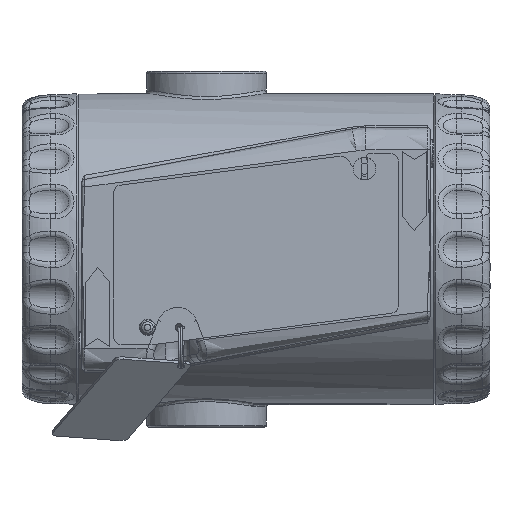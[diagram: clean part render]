
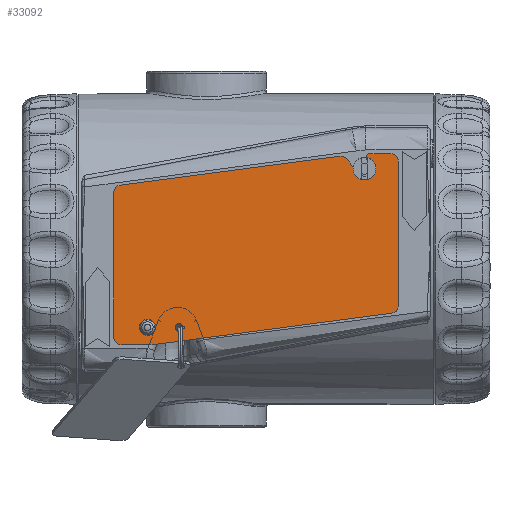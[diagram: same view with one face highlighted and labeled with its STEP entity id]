
A CAD part, left-side view. The second image highlights one B-rep face of the part: STEP entity #33092.
In plain terms, the highlighted planar face has unit normal (-1, 0, 0) as drawn and (0, 0, 1) by its records, which use the part's own axes.
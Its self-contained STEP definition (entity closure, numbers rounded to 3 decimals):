
#2532=FACE_BOUND('',#10654,.T.);
#2533=FACE_BOUND('',#10655,.T.);
#3062=PLANE('',#37426);
#4559=LINE('',#77010,#6097);
#4563=LINE('',#77022,#6101);
#4567=LINE('',#77034,#6105);
#4571=LINE('',#77046,#6109);
#4575=LINE('',#77058,#6113);
#4578=LINE('',#77064,#6116);
#4582=LINE('',#77076,#6120);
#4586=LINE('',#77087,#6124);
#6097=VECTOR('',#46483,10.);
#6101=VECTOR('',#46495,10.);
#6105=VECTOR('',#46507,10.);
#6109=VECTOR('',#46519,10.);
#6113=VECTOR('',#46531,10.);
#6116=VECTOR('',#46536,10.);
#6120=VECTOR('',#46548,10.);
#6124=VECTOR('',#46560,10.);
#8557=FACE_OUTER_BOUND('',#10653,.T.);
#10653=EDGE_LOOP('',(#30636,#30637,#30638,#30639,#30640,#30641,#30642,#30643,
#30644,#30645,#30646,#30647,#30648,#30649,#30650));
#10654=EDGE_LOOP('',(#30651));
#10655=EDGE_LOOP('',(#30652));
#12865=CIRCLE('',#37392,1.35);
#12867=CIRCLE('',#37395,1.);
#12868=CIRCLE('',#37397,2.);
#12870=CIRCLE('',#37401,2.);
#12872=CIRCLE('',#37405,1.);
#12874=CIRCLE('',#37409,2.);
#12876=CIRCLE('',#37413,2.);
#12878=CIRCLE('',#37418,2.);
#12880=CIRCLE('',#37422,2.);
#15902=VERTEX_POINT('',#76990);
#15904=VERTEX_POINT('',#76996);
#15905=VERTEX_POINT('',#77000);
#15906=VERTEX_POINT('',#77001);
#15909=VERTEX_POINT('',#77009);
#15911=VERTEX_POINT('',#77015);
#15913=VERTEX_POINT('',#77021);
#15915=VERTEX_POINT('',#77027);
#15917=VERTEX_POINT('',#77033);
#15919=VERTEX_POINT('',#77039);
#15921=VERTEX_POINT('',#77045);
#15923=VERTEX_POINT('',#77051);
#15925=VERTEX_POINT('',#77057);
#15927=VERTEX_POINT('',#77063);
#15929=VERTEX_POINT('',#77069);
#15931=VERTEX_POINT('',#77075);
#15933=VERTEX_POINT('',#77081);
#20804=EDGE_CURVE('',#15902,#15902,#12865,.T.);
#20807=EDGE_CURVE('',#15904,#15904,#12867,.T.);
#20808=EDGE_CURVE('',#15905,#15906,#12868,.T.);
#20812=EDGE_CURVE('',#15906,#15909,#4559,.T.);
#20815=EDGE_CURVE('',#15909,#15911,#12870,.T.);
#20818=EDGE_CURVE('',#15911,#15913,#4563,.T.);
#20821=EDGE_CURVE('',#15913,#15915,#12872,.T.);
#20824=EDGE_CURVE('',#15915,#15917,#4567,.T.);
#20827=EDGE_CURVE('',#15917,#15919,#12874,.T.);
#20830=EDGE_CURVE('',#15919,#15921,#4571,.T.);
#20833=EDGE_CURVE('',#15921,#15923,#12876,.T.);
#20836=EDGE_CURVE('',#15923,#15925,#4575,.T.);
#20839=EDGE_CURVE('',#15925,#15927,#4578,.T.);
#20842=EDGE_CURVE('',#15927,#15929,#12878,.T.);
#20845=EDGE_CURVE('',#15929,#15931,#4582,.T.);
#20848=EDGE_CURVE('',#15931,#15933,#12880,.T.);
#20851=EDGE_CURVE('',#15933,#15905,#4586,.T.);
#30636=ORIENTED_EDGE('',*,*,#20808,.F.);
#30637=ORIENTED_EDGE('',*,*,#20851,.F.);
#30638=ORIENTED_EDGE('',*,*,#20848,.F.);
#30639=ORIENTED_EDGE('',*,*,#20845,.F.);
#30640=ORIENTED_EDGE('',*,*,#20842,.F.);
#30641=ORIENTED_EDGE('',*,*,#20839,.F.);
#30642=ORIENTED_EDGE('',*,*,#20836,.F.);
#30643=ORIENTED_EDGE('',*,*,#20833,.F.);
#30644=ORIENTED_EDGE('',*,*,#20830,.F.);
#30645=ORIENTED_EDGE('',*,*,#20827,.F.);
#30646=ORIENTED_EDGE('',*,*,#20824,.F.);
#30647=ORIENTED_EDGE('',*,*,#20821,.F.);
#30648=ORIENTED_EDGE('',*,*,#20818,.F.);
#30649=ORIENTED_EDGE('',*,*,#20815,.F.);
#30650=ORIENTED_EDGE('',*,*,#20812,.F.);
#30651=ORIENTED_EDGE('',*,*,#20804,.T.);
#30652=ORIENTED_EDGE('',*,*,#20807,.T.);
#33092=ADVANCED_FACE('',(#8557,#2532,#2533),#3062,.T.);
#37392=AXIS2_PLACEMENT_3D('',#76992,#46464,#46465);
#37395=AXIS2_PLACEMENT_3D('',#76998,#46471,#46472);
#37397=AXIS2_PLACEMENT_3D('',#77002,#46475,#46476);
#37401=AXIS2_PLACEMENT_3D('',#77016,#46488,#46489);
#37405=AXIS2_PLACEMENT_3D('',#77028,#46500,#46501);
#37409=AXIS2_PLACEMENT_3D('',#77040,#46512,#46513);
#37413=AXIS2_PLACEMENT_3D('',#77052,#46524,#46525);
#37418=AXIS2_PLACEMENT_3D('',#77070,#46541,#46542);
#37422=AXIS2_PLACEMENT_3D('',#77082,#46553,#46554);
#37426=AXIS2_PLACEMENT_3D('',#77090,#46564,#46565);
#46464=DIRECTION('center_axis',(0.,0.,-1.));
#46465=DIRECTION('ref_axis',(-1.,0.,0.));
#46471=DIRECTION('center_axis',(0.,0.,-1.));
#46472=DIRECTION('ref_axis',(-1.,0.,0.));
#46475=DIRECTION('center_axis',(0.,0.,-1.));
#46476=DIRECTION('ref_axis',(0.766,0.643,0.));
#46483=DIRECTION('',(0.643,-0.766,0.));
#46488=DIRECTION('center_axis',(0.,0.,1.));
#46489=DIRECTION('ref_axis',(0.766,0.643,0.));
#46495=DIRECTION('',(-0.643,0.766,0.));
#46500=DIRECTION('center_axis',(0.,0.,-1.));
#46501=DIRECTION('ref_axis',(0.,1.,0.));
#46507=DIRECTION('',(1.,0.,0.));
#46512=DIRECTION('center_axis',(0.,0.,-1.));
#46513=DIRECTION('ref_axis',(1.,0.,0.));
#46519=DIRECTION('',(0.,-1.,0.));
#46524=DIRECTION('center_axis',(0.,0.,-1.));
#46525=DIRECTION('ref_axis',(0.131,-0.991,0.));
#46531=DIRECTION('',(-0.991,-0.131,0.));
#46536=DIRECTION('',(-1.,0.,0.));
#46541=DIRECTION('center_axis',(0.,0.,-1.));
#46542=DIRECTION('ref_axis',(-1.,0.,0.));
#46548=DIRECTION('',(0.,1.,0.));
#46553=DIRECTION('center_axis',(0.,0.,-1.));
#46554=DIRECTION('ref_axis',(-0.131,0.991,0.));
#46560=DIRECTION('',(0.991,0.131,0.));
#46564=DIRECTION('center_axis',(0.,0.,1.));
#46565=DIRECTION('ref_axis',(1.,0.,0.));
#76990=CARTESIAN_POINT('',(10.35,4.599,0.7));
#76992=CARTESIAN_POINT('Origin',(9.,4.599,0.7));
#76996=CARTESIAN_POINT('',(18.4,4.599,0.7));
#76998=CARTESIAN_POINT('Origin',(17.4,4.599,0.7));
#77000=CARTESIAN_POINT('',(60.389,50.327,0.7));
#77001=CARTESIAN_POINT('',(62.182,49.63,0.7));
#77002=CARTESIAN_POINT('Origin',(60.65,48.344,0.7));
#77009=CARTESIAN_POINT('',(65.468,45.714,0.7));
#77010=CARTESIAN_POINT('',(65.468,45.714,0.7));
#77015=CARTESIAN_POINT('',(68.532,48.286,0.7));
#77016=CARTESIAN_POINT('Origin',(67.,47.,0.7));
#77021=CARTESIAN_POINT('',(67.633,49.357,0.7));
#77022=CARTESIAN_POINT('',(67.633,49.357,0.7));
#77027=CARTESIAN_POINT('',(68.399,51.,0.7));
#77028=CARTESIAN_POINT('Origin',(68.399,50.,0.7));
#77033=CARTESIAN_POINT('',(74.,51.,0.7));
#77034=CARTESIAN_POINT('',(74.,51.,0.7));
#77039=CARTESIAN_POINT('',(76.,49.,0.7));
#77040=CARTESIAN_POINT('Origin',(74.,49.,0.7));
#77045=CARTESIAN_POINT('',(76.,10.377,0.7));
#77046=CARTESIAN_POINT('',(76.,10.377,0.7));
#77051=CARTESIAN_POINT('',(74.261,8.394,0.7));
#77052=CARTESIAN_POINT('Origin',(74.,10.377,0.7));
#77057=CARTESIAN_POINT('',(10.5,0.,0.7));
#77058=CARTESIAN_POINT('',(10.5,0.,0.7));
#77063=CARTESIAN_POINT('',(2.,0.,0.7));
#77064=CARTESIAN_POINT('',(2.,0.,0.7));
#77069=CARTESIAN_POINT('',(0.,2.,0.7));
#77070=CARTESIAN_POINT('Origin',(2.,2.,0.7));
#77075=CARTESIAN_POINT('',(0.,40.623,0.7));
#77076=CARTESIAN_POINT('',(0.,40.623,0.7));
#77081=CARTESIAN_POINT('',(1.739,42.606,0.7));
#77082=CARTESIAN_POINT('Origin',(2.,40.623,0.7));
#77087=CARTESIAN_POINT('',(60.389,50.327,0.7));
#77090=CARTESIAN_POINT('Origin',(39.077,26.228,0.7));
